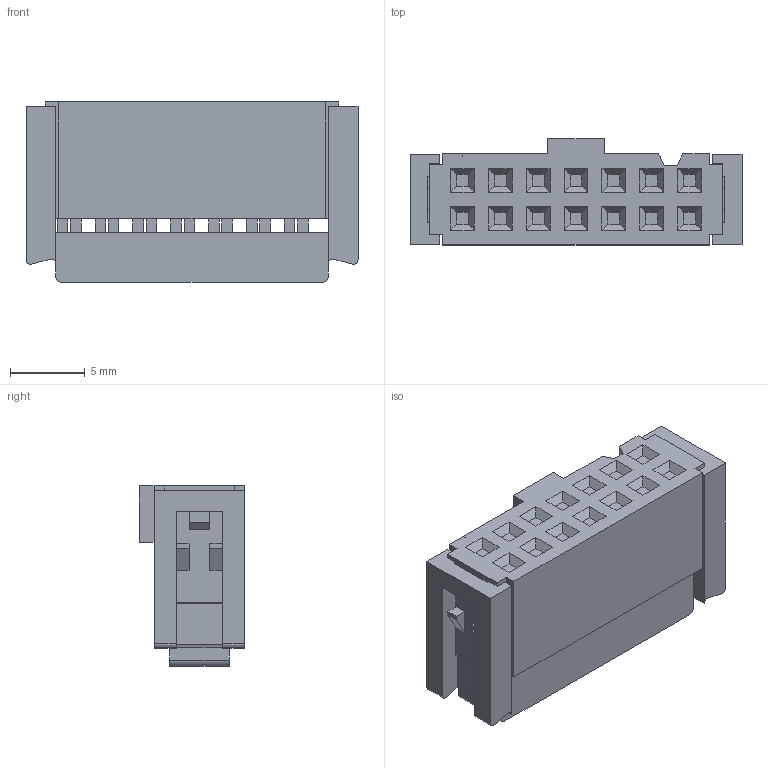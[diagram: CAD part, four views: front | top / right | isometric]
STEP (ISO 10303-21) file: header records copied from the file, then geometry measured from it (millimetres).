
FILE_DESCRIPTION((''),'2;1');
FILE_NAME('C-1-1658528-2','2008-12-05T',('workeradm'),('Tyco Electronics Corporation'),'PRO/ENGINEER BY PARAMETRIC TECHNOLOGY CORPORATION, 2005450','PRO/ENGINEER BY PARAMETRIC TECHNOLOGY CORPORATION, 2005450','');
FILE_SCHEMA(('CONFIG_CONTROL_DESIGN', 'GEOMETRIC_VALIDATION_PROPERTIES_MIM'));
Length unit declared in the file: millimetre
Products named in the file (1): C-1-1658528-2
Bounding box: 22.28 x 7.1 x 12.1 mm (x, y, z)
Volume: 1296.1 mm3; surface area: 1321.4 mm2
Topology: 1 solids, 1 shells, 285 faces, 815 edges, 538 vertices
Faces by surface type: plane 277, cylinder 8
Entity records: 9366 total; most frequent: CARTESIAN_POINT 1639, ORIENTED_EDGE 1630, DIRECTION 1401, EDGE_CURVE 815, VECTOR 799, LINE 799, VERTEX_POINT 538, EDGE_LOOP 361
